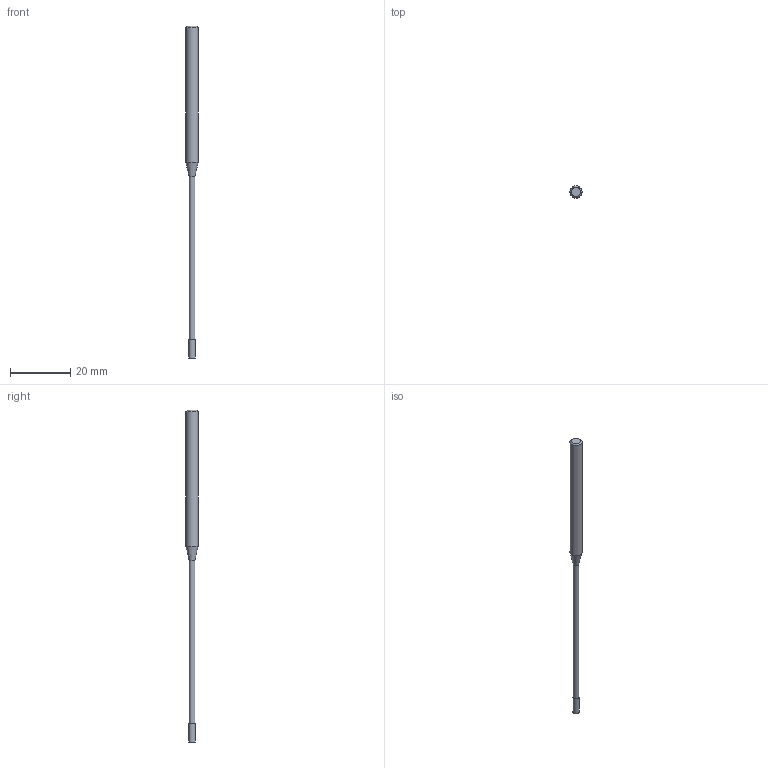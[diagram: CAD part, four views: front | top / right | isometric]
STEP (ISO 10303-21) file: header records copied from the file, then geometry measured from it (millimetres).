
FILE_DESCRIPTION((''),'2;1');
FILE_NAME('C:\Users\nsx150\Desktop\RSE230_20210427\01-00644-02060 RSE230 D2X6X60.step','2021-05-07T14:53:48',(''),(''),'STEP Write','Mastercam 2021 ... CNC Software, Inc.','');
FILE_SCHEMA(('AUTOMOTIVE_DESIGN'));
Length unit declared in the file: millimetre
Products named in the file (1): None
Bounding box: 4 x 4 x 110 mm (x, y, z)
Volume: 779.4 mm3; surface area: 998.3 mm2
Topology: 2 solids, 2 shells, 9 faces, 12 edges, 7 vertices
Faces by surface type: plane 4, cylinder 3, cone 2
Full cylindrical faces by diameter (mm): 1.94 x1, 2 x1, 4 x1
Entity records: 211 total; most frequent: DIRECTION 36, CARTESIAN_POINT 25, AXIS2_PLACEMENT_3D 18, ORIENTED_EDGE 14, EDGE_LOOP 14, STYLED_ITEM 12, ADVANCED_FACE 9, FACE_BOUND 8
